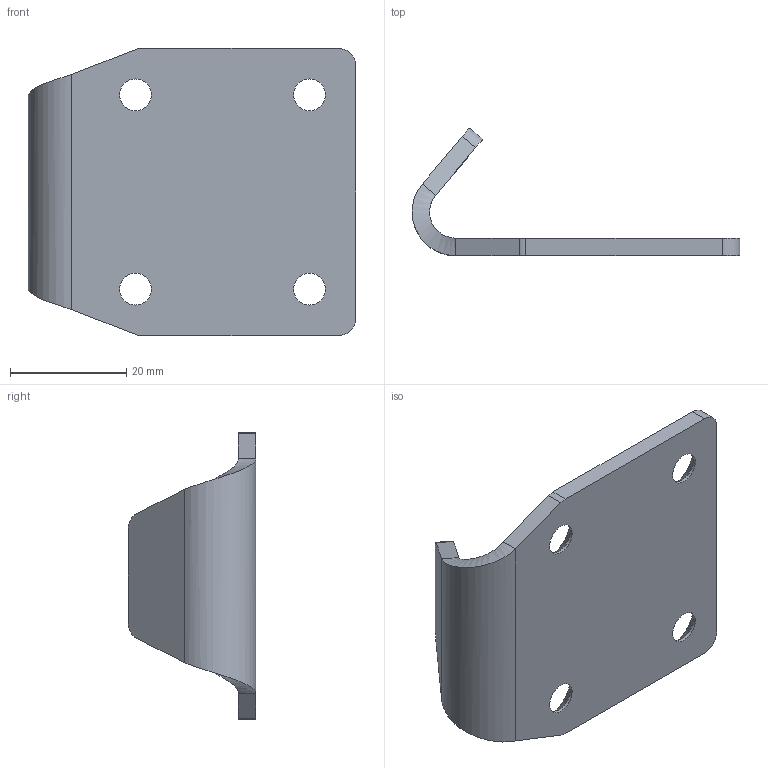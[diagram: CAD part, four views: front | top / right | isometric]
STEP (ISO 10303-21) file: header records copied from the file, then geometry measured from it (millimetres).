
FILE_DESCRIPTION(/* description */ ('Unknown'),/* implementation_level */ '2;1');
FILE_NAME(/* name */ '3626.30',/* time_stamp */ '2021-02-08T14:52:26+01:00',/* author */ ('Unknown'),/* organization */ ('Unknown'),/* preprocessor_version */ 'ST-DEVELOPER v16.7',/* originating_system */ 'DEX',/* authorisation */ $);
FILE_SCHEMA (('AUTOMOTIVE_DESIGN {1 0 10303 214 3 1 1}'));
Length unit declared in the file: millimetre
Products named in the file (1): 3626.30
Bounding box: 56.5 x 22 x 49.5 mm (x, y, z)
Volume: 8921 mm3; surface area: 6939.7 mm2
Topology: 1 solids, 1 shells, 30 faces, 76 edges, 48 vertices
Faces by surface type: plane 12, cylinder 12, cone 4, bspline 2
Full cylindrical faces by diameter (mm): 5.5 x4
Entity records: 1022 total; most frequent: CARTESIAN_POINT 305, DIRECTION 142, ORIENTED_EDGE 128, EDGE_CURVE 64, AXIS2_PLACEMENT_3D 53, EDGE_LOOP 46, FACE_BOUND 46, VERTEX_POINT 44
